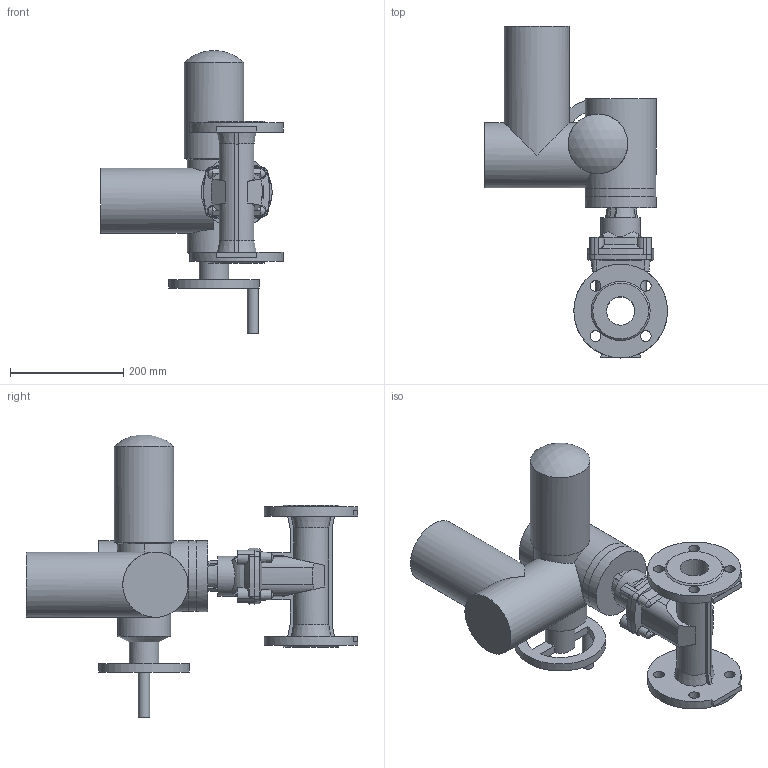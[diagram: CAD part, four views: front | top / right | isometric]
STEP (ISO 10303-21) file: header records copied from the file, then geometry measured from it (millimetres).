
FILE_DESCRIPTION (( 'STEP AP203' ), '1' );
FILE_NAME ('O_15_70_DN050_X1X_SA07.6_AA0.step', '2017-03-20T12:43:02', ( 'Windows User' ), ( 'AVK' ), 'SwSTEP 2.0', 'SolidWorks 2012', '' );
FILE_SCHEMA (( 'CONFIG_CONTROL_DESIGN' ));
Length unit declared in the file: inch
Products named in the file (1): O_15_70_DN050_X1X_SA07.6_AA0
Bounding box: 322.5 x 585 x 498.55 mm (x, y, z)
Volume: 10336510.1 mm3; surface area: 594759.1 mm2
Topology: 1 solids, 1 shells, 240 faces, 655 edges, 425 vertices
Faces by surface type: plane 119, cylinder 61, cone 53, torus 4, bspline 2, sphere 1
Full cylindrical faces by diameter (mm): 19 x8, 20 x1, 50 x1, 52.112 x1, 70 x1, 93.905 x1, 105 x1, 115 x2, 125 x3, 160 x1, 165 x2
Entity records: 8628 total; most frequent: CARTESIAN_POINT 2956, ORIENTED_EDGE 1204, DIRECTION 1078, EDGE_CURVE 602, AXIS2_PLACEMENT_3D 411, VERTEX_POINT 402, EDGE_LOOP 298, FACE_OUTER_BOUND 261
